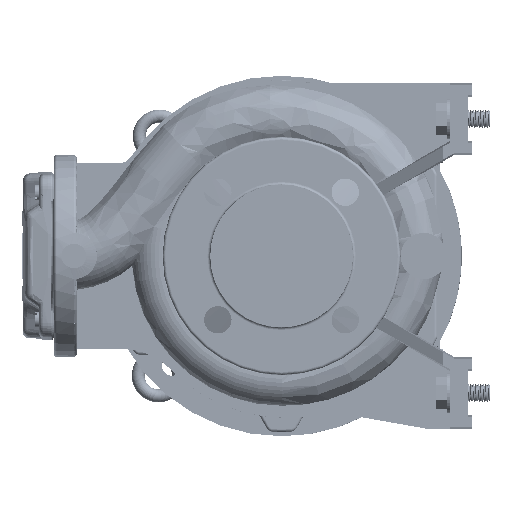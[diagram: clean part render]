
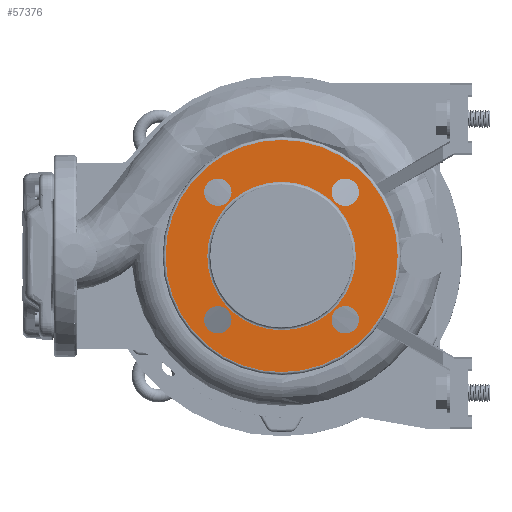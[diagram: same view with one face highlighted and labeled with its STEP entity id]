
A CAD part, left-side view. The second image highlights one B-rep face of the part: STEP entity #57376.
In plain terms, the highlighted planar face has unit normal (-1, 0, 0).
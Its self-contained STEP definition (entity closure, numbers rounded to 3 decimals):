
#3598 = DIRECTION ( 'NONE',  ( -1., 0., 0. ) ) ;
#10130 = CARTESIAN_POINT ( 'NONE',  ( -144.224, 126.825, 223.101 ) ) ;
#12114 = CARTESIAN_POINT ( 'NONE',  ( -144.224, 119.519, 267.295 ) ) ;
#12704 = DIRECTION ( 'NONE',  ( 0., 1., 0. ) ) ;
#13361 = CARTESIAN_POINT ( 'NONE',  ( -144.224, 215.213, 223.101 ) ) ;
#13494 = FACE_BOUND ( 'NONE', #137911, .T. ) ;
#17719 = DIRECTION ( 'NONE',  ( -1., 0., 0. ) ) ;
#18173 = CARTESIAN_POINT ( 'NONE',  ( -144.224, 205.713, 311.489 ) ) ;
#22122 = VERTEX_POINT ( 'NONE', #163389 ) ;
#22398 = EDGE_CURVE ( 'NONE', #81514, #74879, #77246, .T. ) ;
#22650 = VERTEX_POINT ( 'NONE', #67373 ) ;
#24799 = AXIS2_PLACEMENT_3D ( 'NONE', #190627, #126095, #12704 ) ;
#26580 = EDGE_CURVE ( 'NONE', #110971, #88648, #98201, .T. ) ;
#26918 = DIRECTION ( 'NONE',  ( -1., 0., 0. ) ) ;
#27482 = AXIS2_PLACEMENT_3D ( 'NONE', #13361, #26918, #109097 ) ;
#28487 = AXIS2_PLACEMENT_3D ( 'NONE', #10130, #137069, #200594 ) ;
#32764 = DIRECTION ( 'NONE',  ( 0., -1., 0. ) ) ;
#34200 = CARTESIAN_POINT ( 'NONE',  ( -144.224, 117.325, 311.489 ) ) ;
#38659 = EDGE_LOOP ( 'NONE', ( #51338, #188010 ) ) ;
#42427 = ORIENTED_EDGE ( 'NONE', *, *, #108194, .F. ) ;
#45678 = CARTESIAN_POINT ( 'NONE',  ( -144.224, 126.825, 311.489 ) ) ;
#46465 = DIRECTION ( 'NONE',  ( 0., -1., 0. ) ) ;
#47742 = EDGE_LOOP ( 'NONE', ( #111654, #84832 ) ) ;
#50064 = EDGE_LOOP ( 'NONE', ( #104535, #107508 ) ) ;
#51338 = ORIENTED_EDGE ( 'NONE', *, *, #78078, .F. ) ;
#53023 = CIRCLE ( 'NONE', #162797, 51.5 ) ;
#55049 = CARTESIAN_POINT ( 'NONE',  ( -144.224, 205.713, 223.101 ) ) ;
#55173 = AXIS2_PLACEMENT_3D ( 'NONE', #182824, #104743, #95031 ) ;
#57376 = ADVANCED_FACE ( 'NONE', ( #189384, #187321, #188367, #13494, #171718, #204981 ), #76958, .F. ) ;
#61044 = CARTESIAN_POINT ( 'NONE',  ( -144.224, 171.019, 267.295 ) ) ;
#64695 = AXIS2_PLACEMENT_3D ( 'NONE', #202327, #183611, #151361 ) ;
#67373 = CARTESIAN_POINT ( 'NONE',  ( -144.224, 90.519, 267.295 ) ) ;
#68015 = EDGE_CURVE ( 'NONE', #123893, #103448, #151244, .T. ) ;
#68557 = CARTESIAN_POINT ( 'NONE',  ( -144.224, 222.519, 267.295 ) ) ;
#70750 = CARTESIAN_POINT ( 'NONE',  ( -144.224, 136.325, 223.101 ) ) ;
#73044 = ORIENTED_EDGE ( 'NONE', *, *, #89144, .F. ) ;
#73397 = DIRECTION ( 'NONE',  ( -1., 0., 0. ) ) ;
#74879 = VERTEX_POINT ( 'NONE', #155661 ) ;
#75858 = DIRECTION ( 'NONE',  ( -1., 0., 0. ) ) ;
#76860 = DIRECTION ( 'NONE',  ( -1., 0., 0. ) ) ;
#76958 = PLANE ( 'NONE',  #125201 ) ;
#77246 = CIRCLE ( 'NONE', #27482, 9.5 ) ;
#78078 = EDGE_CURVE ( 'NONE', #88648, #110971, #53023, .T. ) ;
#80512 = CIRCLE ( 'NONE', #136939, 9.5 ) ;
#81514 = VERTEX_POINT ( 'NONE', #55049 ) ;
#84832 = ORIENTED_EDGE ( 'NONE', *, *, #188645, .F. ) ;
#88648 = VERTEX_POINT ( 'NONE', #12114 ) ;
#89144 = EDGE_CURVE ( 'NONE', #197800, #148238, #190995, .T. ) ;
#89407 = ORIENTED_EDGE ( 'NONE', *, *, #180540, .F. ) ;
#91029 = CARTESIAN_POINT ( 'NONE',  ( -144.224, 171.019, 267.295 ) ) ;
#93582 = DIRECTION ( 'NONE',  ( 0., 1., 0. ) ) ;
#95031 = DIRECTION ( 'NONE',  ( 0., -1., 0. ) ) ;
#98201 = CIRCLE ( 'NONE', #124650, 51.5 ) ;
#99132 = DIRECTION ( 'NONE',  ( -1., 0., 0. ) ) ;
#99683 = ORIENTED_EDGE ( 'NONE', *, *, #68015, .F. ) ;
#100012 = CARTESIAN_POINT ( 'NONE',  ( -144.224, 136.325, 311.489 ) ) ;
#103448 = VERTEX_POINT ( 'NONE', #70750 ) ;
#104535 = ORIENTED_EDGE ( 'NONE', *, *, #204206, .T. ) ;
#104743 = DIRECTION ( 'NONE',  ( -1., 0., 0. ) ) ;
#104747 = CIRCLE ( 'NONE', #157974, 9.5 ) ;
#107508 = ORIENTED_EDGE ( 'NONE', *, *, #122862, .T. ) ;
#108194 = EDGE_CURVE ( 'NONE', #22122, #111618, #80512, .T. ) ;
#109097 = DIRECTION ( 'NONE',  ( 0., 0., 1. ) ) ;
#110971 = VERTEX_POINT ( 'NONE', #68557 ) ;
#111275 = DIRECTION ( 'NONE',  ( 1., 0., 0. ) ) ;
#111618 = VERTEX_POINT ( 'NONE', #18173 ) ;
#111654 = ORIENTED_EDGE ( 'NONE', *, *, #22398, .F. ) ;
#112231 = DIRECTION ( 'NONE',  ( 0., 0., -1. ) ) ;
#112805 = CIRCLE ( 'NONE', #139378, 9.5 ) ;
#113425 = DIRECTION ( 'NONE',  ( 0., -1., 0. ) ) ;
#116693 = EDGE_CURVE ( 'NONE', #103448, #123893, #201287, .T. ) ;
#121203 = CARTESIAN_POINT ( 'NONE',  ( -144.224, 117.325, 223.101 ) ) ;
#122862 = EDGE_CURVE ( 'NONE', #172867, #22650, #200953, .T. ) ;
#123893 = VERTEX_POINT ( 'NONE', #121203 ) ;
#124650 = AXIS2_PLACEMENT_3D ( 'NONE', #91029, #73397, #184783 ) ;
#124839 = CIRCLE ( 'NONE', #55173, 80.5 ) ;
#125201 = AXIS2_PLACEMENT_3D ( 'NONE', #138406, #111275, #93582 ) ;
#126095 = DIRECTION ( 'NONE',  ( -1., 0., 0. ) ) ;
#129036 = ORIENTED_EDGE ( 'NONE', *, *, #203745, .F. ) ;
#129085 = EDGE_LOOP ( 'NONE', ( #99683, #199374 ) ) ;
#132124 = CARTESIAN_POINT ( 'NONE',  ( -144.224, 171.019, 267.295 ) ) ;
#136939 = AXIS2_PLACEMENT_3D ( 'NONE', #145995, #99132, #160583 ) ;
#137069 = DIRECTION ( 'NONE',  ( -1., 0., 0. ) ) ;
#137911 = EDGE_LOOP ( 'NONE', ( #89407, #42427 ) ) ;
#138406 = CARTESIAN_POINT ( 'NONE',  ( -144.224, 222.519, 267.295 ) ) ;
#139378 = AXIS2_PLACEMENT_3D ( 'NONE', #160768, #3598, #32764 ) ;
#141177 = DIRECTION ( 'NONE',  ( -1., 0., 0. ) ) ;
#145995 = CARTESIAN_POINT ( 'NONE',  ( -144.224, 215.213, 311.489 ) ) ;
#148238 = VERTEX_POINT ( 'NONE', #34200 ) ;
#151244 = CIRCLE ( 'NONE', #24799, 9.5 ) ;
#151361 = DIRECTION ( 'NONE',  ( 0., 0., -1. ) ) ;
#155661 = CARTESIAN_POINT ( 'NONE',  ( -144.224, 224.713, 223.101 ) ) ;
#157184 = CIRCLE ( 'NONE', #160462, 9.5 ) ;
#157974 = AXIS2_PLACEMENT_3D ( 'NONE', #45678, #76860, #112231 ) ;
#160462 = AXIS2_PLACEMENT_3D ( 'NONE', #185177, #75858, #204895 ) ;
#160583 = DIRECTION ( 'NONE',  ( 0., -1., 0. ) ) ;
#160768 = CARTESIAN_POINT ( 'NONE',  ( -144.224, 215.213, 311.489 ) ) ;
#162797 = AXIS2_PLACEMENT_3D ( 'NONE', #132124, #17719, #113425 ) ;
#163389 = CARTESIAN_POINT ( 'NONE',  ( -144.224, 224.713, 311.489 ) ) ;
#165853 = EDGE_LOOP ( 'NONE', ( #129036, #73044 ) ) ;
#171718 = FACE_BOUND ( 'NONE', #38659, .T. ) ;
#172867 = VERTEX_POINT ( 'NONE', #173136 ) ;
#173136 = CARTESIAN_POINT ( 'NONE',  ( -144.224, 251.519, 267.295 ) ) ;
#180540 = EDGE_CURVE ( 'NONE', #111618, #22122, #112805, .T. ) ;
#182824 = CARTESIAN_POINT ( 'NONE',  ( -144.224, 171.019, 267.295 ) ) ;
#183611 = DIRECTION ( 'NONE',  ( -1., 0., 0. ) ) ;
#184783 = DIRECTION ( 'NONE',  ( 0., -1., 0. ) ) ;
#185177 = CARTESIAN_POINT ( 'NONE',  ( -144.224, 215.213, 223.101 ) ) ;
#187321 = FACE_BOUND ( 'NONE', #129085, .T. ) ;
#188010 = ORIENTED_EDGE ( 'NONE', *, *, #26580, .F. ) ;
#188367 = FACE_BOUND ( 'NONE', #47742, .T. ) ;
#188645 = EDGE_CURVE ( 'NONE', #74879, #81514, #157184, .T. ) ;
#189384 = FACE_BOUND ( 'NONE', #165853, .T. ) ;
#190627 = CARTESIAN_POINT ( 'NONE',  ( -144.224, 126.825, 223.101 ) ) ;
#190995 = CIRCLE ( 'NONE', #64695, 9.5 ) ;
#197800 = VERTEX_POINT ( 'NONE', #100012 ) ;
#199374 = ORIENTED_EDGE ( 'NONE', *, *, #116693, .F. ) ;
#200594 = DIRECTION ( 'NONE',  ( 0., 1., 0. ) ) ;
#200953 = CIRCLE ( 'NONE', #204342, 80.5 ) ;
#201287 = CIRCLE ( 'NONE', #28487, 9.5 ) ;
#202327 = CARTESIAN_POINT ( 'NONE',  ( -144.224, 126.825, 311.489 ) ) ;
#203745 = EDGE_CURVE ( 'NONE', #148238, #197800, #104747, .T. ) ;
#204206 = EDGE_CURVE ( 'NONE', #22650, #172867, #124839, .T. ) ;
#204342 = AXIS2_PLACEMENT_3D ( 'NONE', #61044, #141177, #46465 ) ;
#204895 = DIRECTION ( 'NONE',  ( 0., 0., 1. ) ) ;
#204981 = FACE_OUTER_BOUND ( 'NONE', #50064, .T. ) ;
